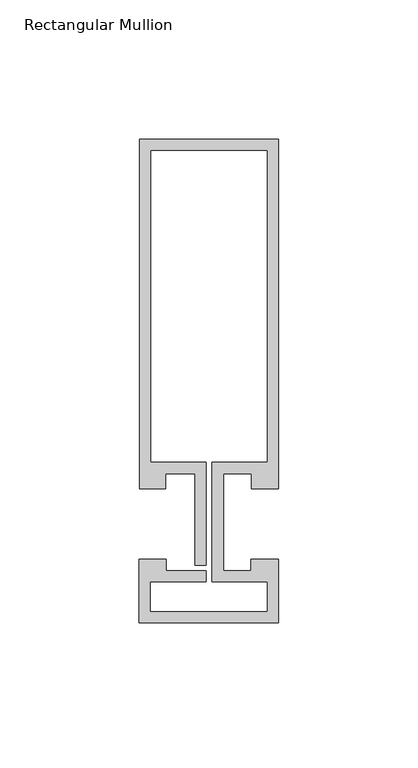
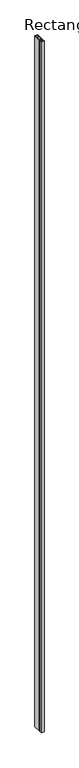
"""IFC4 building model written with IfcOpenShell, lengths in millimetres: member geometry, Rectangular Mullion : Reynaers_CW-50_Transom-Transom_125.5mm_Facecap-02C."""

from ifc_helpers import new_model, si_unit, frame, origin, place, context, project, spatial, polyline, outline, extrude, source, transform, mapped, element, save


def rectangular_mullion_8fbd9535(model_context):
    return source(origin(), model_context, "Body", "SweptSolid", [
        extrude(outline(polyline([(25.1995941, -12.7331291), (25.1995941, -35.5313894), (-24.994845, -35.5313894), (-24.994845, -12.7331291), (-15.2996495, -12.7331291), (-15.2996495, -16.7331291), (-0.9004059, -16.7331291), (-0.9004059, -20.7331291), (-20.994845, -20.7331291), (-20.994845, -31.5313894), (21.1995941, -31.5313894), (21.1995941, -20.7331291), (1.2995941, -20.7331291), (1.2995941, 22.1331291), (21.1995941, 22.1331291), (21.1995941, 134.2331291), (-20.8004059, 134.2331291), (-20.8004059, 22.1331291), (-0.9004059, 22.1331291), (-0.9004059, -14.7331291), (-4.9004059, -14.7331291), (-4.9004059, 18.1331291), (-15.499, 18.1331291), (-15.499, 12.7331291), (-24.8004059, 12.7331291), (-24.8004059, 138.2331291), (25.1995941, 138.2331291), (25.1995941, 12.7331291), (15.499, 12.7331291), (15.499, 18.1331291), (5.2995941, 18.1331291), (5.2995941, -16.7331291), (15.2996495, -16.7331291), (15.2996495, -12.7331291), (25.1995941, -12.7331291)])), frame((0.0, 0.0, -12000.0), z_axis=(0.0, 0.0, 1.0), x_axis=(1.0, 0.0, 0.0)), (0.0, 0.0, 1.0), 12000.0),
    ])


if __name__ == "__main__":
    model = new_model("IFC4")
    model_context = context("Model", 3, world=origin())
    ifc_project = project(units=[si_unit("LENGTHUNIT", "METRE", prefix="MILLI")], contexts=[model_context])
    site = spatial("IfcSite", under=ifc_project)
    building = spatial("IfcBuilding", under=site)
    placement = place(None, origin())
    rectangular_mullion_shape = rectangular_mullion_8fbd9535(model_context)
    element("IfcMember", 1, ObjectType="Rectangular Mullion : Reynaers_CW-50_Transom-Transom_125.5mm_Facecap-02C", at=placement, inside=building, context=model_context, shape_type="MappedRepresentation", body=[
        mapped(rectangular_mullion_shape, transform((0.0, 0.0, 0.0), x_axis=(1.0, 0.0, 0.0), y_axis=(0.0, 1.0, 0.0), z_axis=(0.0, 0.0, 1.0))),
    ])
    save(model, "model.ifc")
